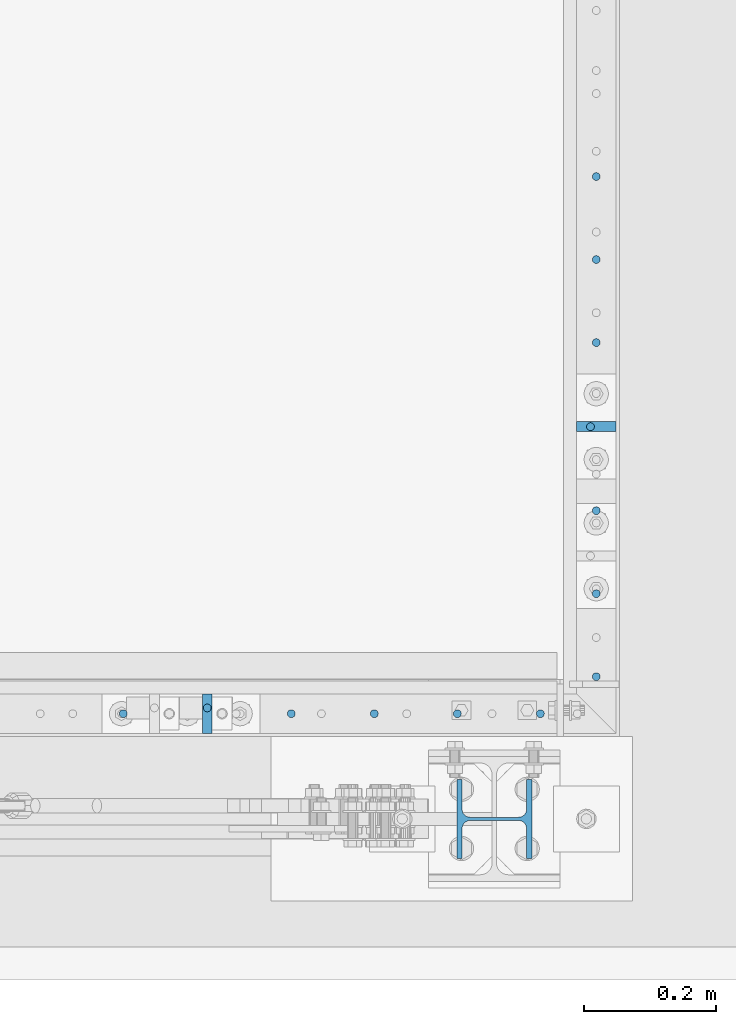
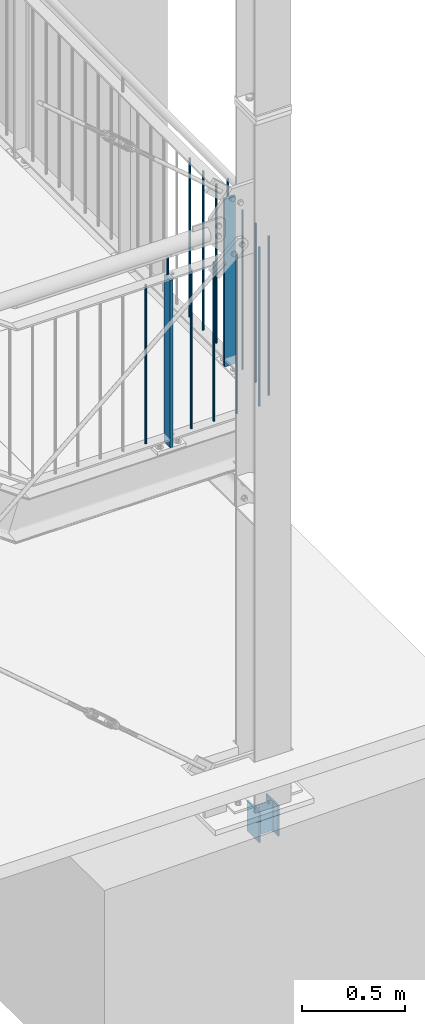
# One storey, part 86 of 825: 16 columns, 2 openings.
"""IFC2X3 building model written with IfcOpenShell, lengths in millimetres."""

from ifc_helpers import new_model, entity, si_unit, converted_unit, frame, origin, origin_with_axes, origin_2d, origin_2d_with_axis, place, context, project, spatial, rectangle, circle, i_section, extrude, clip, halfspace, material, element, save


model = new_model("IFC2X3")

# Units and contexts
model_context = context("Model", 3, precision=1e-09, world=origin_with_axes())
ifc_project = project(units=[si_unit("LENGTHUNIT", "METRE", prefix="MILLI"), si_unit("AREAUNIT", "SQUARE_METRE"), si_unit("VOLUMEUNIT", "CUBIC_METRE"), converted_unit("PLANEANGLEUNIT", "DEGREE", entity("IfcPlaneAngleMeasure", 0.01745329), si_unit("PLANEANGLEUNIT", "RADIAN"), dimensions=[0, 0, 0, 0, 0, 0, 0])], contexts=[model_context])

# Site, building, storey
site_placement = place(None, origin_with_axes())
site = spatial("IfcSite", under=ifc_project, at=site_placement, Name="Cnopf'sche Kinderklinik", CompositionType="ELEMENT")
building_placement = place(site_placement, origin_with_axes())
building = spatial("IfcBuilding", under=site, at=building_placement, Name="Struktur 1", CompositionType="ELEMENT")
storey_placement = place(building_placement, origin_with_axes())
storey = spatial("IfcBuildingStorey", under=building, at=storey_placement, Name="Default Storey", CompositionType="ELEMENT", Elevation=0.0)

# Column, openings
ifc_material = material(Name="S235JR")
column_1_placement = place(None, frame((8866.713402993, 4366.736971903, 30.0), z_axis=(0.0, 0.0, 1.0), x_axis=(0.0, 1.0, 0.0)))
column_1 = element("IfcColumn", 1, at=column_1_placement, inside=storey, material=ifc_material, Name="-", ObjectType="-", context=model_context, shape_type="SweptSolid", body=[
    extrude(i_section(OverallWidth=120.0, OverallDepth=114.0, WebThickness=5.0, FlangeThickness=8.0, FilletRadius=12.0, at=origin_2d()), origin(), (0.0, 0.0, -1.0), 180.0),
])
opening_1_placement = place(column_1_placement, frame((-3.0, 30.0, -12.0), z_axis=(1.0, 0.0, 0.0), x_axis=(0.0, 0.0, -1.0)))
element("IfcOpeningElement", 2, at=opening_1_placement, cuts=column_1, ObjectType="Opening", context=model_context, shape_type="SweptSolid", body=[
    extrude(circle(Radius=6.001, at=origin_2d_with_axis()), origin(), (0.0, 0.0, 1.0), 6.0),
])
opening_2_placement = place(column_1_placement, frame((-3.0, -30.0, -12.0), z_axis=(1.0, 0.0, 0.0), x_axis=(0.0, 0.0, -1.0)))
element("IfcOpeningElement", 3, at=opening_2_placement, cuts=column_1, ObjectType="Opening", context=model_context, shape_type="SweptSolid", body=[
    extrude(circle(Radius=6.001, at=origin_2d_with_axis()), origin(), (0.0, 0.0, 1.0), 6.0),
])

# Columns
column_2_placement = place(None, frame((9021.713402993, 4963.274795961, 3220.775923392), z_axis=(0.0, 0.0, 1.0), x_axis=(0.0, -1.0, 0.0)))
element("IfcColumn", 4, at=column_2_placement, inside=storey, material=ifc_material, Name="Railing_Post_Landing#6", ObjectType="Railing_Post_Landing#6", context=model_context, shape_type="Clipping", body=[
    clip(clip(extrude(rectangle(XDim=15.0, YDim=60.0, at=origin_2d()), origin(), (0.0, 0.0, -1.0), 1070.646584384), halfspace(frame((4963.274795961, -9021.713402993, -1019.722292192), z_axis=(0.0, 0.0, 1.0), x_axis=(0.0, 1.0, 0.0)), True)), halfspace(frame((4963.274795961, -9021.713402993, -30.924292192), z_axis=(0.0, 0.0, -1.0), x_axis=(0.0, -1.0, 0.0)), True)),
])
column_3_placement = place(None, frame((8430.174109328, 4526.736971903, 3220.775923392), z_axis=(0.0, 0.0, 1.0), x_axis=(-1.0, 0.0, 0.0)))
element("IfcColumn", 5, at=column_3_placement, inside=storey, material=ifc_material, Name="Railing_Post_Landing#7", ObjectType="Railing_Post_Landing#7", context=model_context, shape_type="Clipping", body=[
    clip(clip(extrude(rectangle(XDim=15.0, YDim=60.0, at=origin_2d()), origin(), (0.0, 0.0, -1.0), 1070.646584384), halfspace(frame((8430.174109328, 4526.736971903, -1019.722292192), z_axis=(0.0, 0.0, 1.0), x_axis=(-1.0, 0.0, 0.0)), True)), halfspace(frame((8430.174109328, 4526.736971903, -30.924292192), z_axis=(0.0, 0.0, -1.0), x_axis=(1.0, 0.0, 0.0)), True)),
])
column_4_placement = place(None, frame((9021.713402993, 5343.553835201, 3203.337912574), z_axis=(0.0, 0.0, 1.0), x_axis=(0.0, -1.0, 0.0)))
element("IfcColumn", 6, at=column_4_placement, inside=storey, material=ifc_material, Name="Railing_Picket_Landing#39", ObjectType="Railing_Picket_Landing#39", context=model_context, shape_type="Clipping", body=[
    clip(clip(extrude(circle(Radius=6.0, at=origin_2d()), origin(), (0.0, 0.0, -1.0), 965.770562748), halfspace(frame((5343.553835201, -9021.713402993, -13.486281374), z_axis=(0.0, 0.0, -1.0), x_axis=(0.0, -1.0, 0.0)), True)), halfspace(frame((5343.553835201, -9021.713402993, -952.284281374), z_axis=(0.0, 0.0, 1.0), x_axis=(0.0, 1.0, 0.0)), True)),
])
column_5_placement = place(None, frame((9021.713402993, 5217.294315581, 3203.337912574), z_axis=(0.0, 0.0, 1.0), x_axis=(0.0, -1.0, 0.0)))
element("IfcColumn", 7, at=column_5_placement, inside=storey, material=ifc_material, Name="Railing_Picket_Landing#40", ObjectType="Railing_Picket_Landing#40", context=model_context, shape_type="Clipping", body=[
    clip(clip(extrude(circle(Radius=6.0, at=origin_2d()), origin(), (0.0, 0.0, -1.0), 965.770562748), halfspace(frame((5217.294315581, -9021.713402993, -13.486281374), z_axis=(0.0, 0.0, -1.0), x_axis=(0.0, -1.0, 0.0)), True)), halfspace(frame((5217.294315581, -9021.713402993, -952.284281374), z_axis=(0.0, 0.0, 1.0), x_axis=(0.0, 1.0, 0.0)), True)),
])
column_6_placement = place(None, frame((9021.713402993, 5091.034795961, 3203.337912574), z_axis=(0.0, 0.0, 1.0), x_axis=(0.0, -1.0, 0.0)))
element("IfcColumn", 8, at=column_6_placement, inside=storey, material=ifc_material, Name="Railing_Picket_Landing#41", ObjectType="Railing_Picket_Landing#41", context=model_context, shape_type="Clipping", body=[
    clip(clip(extrude(circle(Radius=6.0, at=origin_2d()), origin(), (0.0, 0.0, -1.0), 965.770562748), halfspace(frame((5091.034795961, -9021.713402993, -13.486281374), z_axis=(0.0, 0.0, -1.0), x_axis=(0.0, -1.0, 0.0)), True)), halfspace(frame((5091.034795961, -9021.713402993, -952.284281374), z_axis=(0.0, 0.0, 1.0), x_axis=(0.0, 1.0, 0.0)), True)),
])
column_7_placement = place(None, frame((9021.713402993, 4835.514795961, 3203.337912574), z_axis=(0.0, 0.0, 1.0), x_axis=(0.0, -1.0, 0.0)))
element("IfcColumn", 9, at=column_7_placement, inside=storey, material=ifc_material, Name="Railing_Picket_Landing#42", ObjectType="Railing_Picket_Landing#42", context=model_context, shape_type="Clipping", body=[
    clip(clip(extrude(circle(Radius=6.0, at=origin_2d()), origin(), (0.0, 0.0, -1.0), 965.770562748), halfspace(frame((4835.514795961, -9021.713402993, -13.486281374), z_axis=(0.0, 0.0, -1.0), x_axis=(0.0, -1.0, 0.0)), True)), halfspace(frame((4835.514795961, -9021.713402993, -952.284281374), z_axis=(0.0, 0.0, 1.0), x_axis=(0.0, 1.0, 0.0)), True)),
])
column_8_placement = place(None, frame((9021.713402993, 4709.25527634, 3203.337912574), z_axis=(0.0, 0.0, 1.0), x_axis=(0.0, -1.0, 0.0)))
element("IfcColumn", 10, at=column_8_placement, inside=storey, material=ifc_material, Name="Railing_Picket_Landing#43", ObjectType="Railing_Picket_Landing#43", context=model_context, shape_type="Clipping", body=[
    clip(clip(extrude(circle(Radius=6.0, at=origin_2d()), origin(), (0.0, 0.0, -1.0), 965.770562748), halfspace(frame((4709.25527634, -9021.713402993, -13.486281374), z_axis=(0.0, 0.0, -1.0), x_axis=(0.0, -1.0, 0.0)), True)), halfspace(frame((4709.25527634, -9021.713402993, -952.284281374), z_axis=(0.0, 0.0, 1.0), x_axis=(0.0, 1.0, 0.0)), True)),
])
column_9_placement = place(None, frame((9021.713402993, 4582.99575672, 3203.337912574), z_axis=(0.0, 0.0, 1.0), x_axis=(0.0, -1.0, 0.0)))
element("IfcColumn", 11, at=column_9_placement, inside=storey, material=ifc_material, Name="Railing_Picket_Landing#44", ObjectType="Railing_Picket_Landing#44", context=model_context, shape_type="Clipping", body=[
    clip(clip(extrude(circle(Radius=6.0, at=origin_2d()), origin(), (0.0, 0.0, -1.0), 965.770562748), halfspace(frame((4582.99575672, -9021.713402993, -13.486281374), z_axis=(0.0, 0.0, -1.0), x_axis=(0.0, -1.0, 0.0)), True)), halfspace(frame((4582.99575672, -9021.713402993, -952.284281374), z_axis=(0.0, 0.0, 1.0), x_axis=(0.0, 1.0, 0.0)), True)),
])
column_10_placement = place(None, frame((8936.712668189, 4526.736971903, 3203.337912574), z_axis=(0.0, 0.0, 1.0), x_axis=(-1.0, 0.0, 0.0)))
element("IfcColumn", 12, at=column_10_placement, inside=storey, material=ifc_material, Name="Railing_Picket_Landing#45", ObjectType="Railing_Picket_Landing#45", context=model_context, shape_type="Clipping", body=[
    clip(clip(extrude(circle(Radius=6.0, at=origin_2d()), origin(), (0.0, 0.0, -1.0), 965.770562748), halfspace(frame((8936.712668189, 4526.736971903, -13.486281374), z_axis=(0.0, 0.0, -1.0), x_axis=(1.0, 0.0, 0.0)), True)), halfspace(frame((8936.712668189, 4526.736971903, -952.284281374), z_axis=(0.0, 0.0, 1.0), x_axis=(-1.0, 0.0, 0.0)), True)),
])
column_11_placement = place(None, frame((8810.453148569, 4526.736971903, 3203.337912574), z_axis=(0.0, 0.0, 1.0), x_axis=(-1.0, 0.0, 0.0)))
element("IfcColumn", 13, at=column_11_placement, inside=storey, material=ifc_material, Name="Railing_Picket_Landing#46", ObjectType="Railing_Picket_Landing#46", context=model_context, shape_type="Clipping", body=[
    clip(clip(extrude(circle(Radius=6.0, at=origin_2d()), origin(), (0.0, 0.0, -1.0), 965.770562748), halfspace(frame((8810.453148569, 4526.736971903, -13.486281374), z_axis=(0.0, 0.0, -1.0), x_axis=(1.0, 0.0, 0.0)), True)), halfspace(frame((8810.453148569, 4526.736971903, -952.284281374), z_axis=(0.0, 0.0, 1.0), x_axis=(-1.0, 0.0, 0.0)), True)),
])
column_12_placement = place(None, frame((8684.193628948, 4526.736971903, 3203.337912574), z_axis=(0.0, 0.0, 1.0), x_axis=(-1.0, 0.0, 0.0)))
element("IfcColumn", 14, at=column_12_placement, inside=storey, material=ifc_material, Name="Railing_Picket_Landing#47", ObjectType="Railing_Picket_Landing#47", context=model_context, shape_type="Clipping", body=[
    clip(clip(extrude(circle(Radius=6.0, at=origin_2d()), origin(), (0.0, 0.0, -1.0), 965.770562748), halfspace(frame((8684.193628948, 4526.736971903, -13.486281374), z_axis=(0.0, 0.0, -1.0), x_axis=(1.0, 0.0, 0.0)), True)), halfspace(frame((8684.193628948, 4526.736971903, -952.284281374), z_axis=(0.0, 0.0, 1.0), x_axis=(-1.0, 0.0, 0.0)), True)),
])
column_13_placement = place(None, frame((8557.934109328, 4526.736971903, 3203.337912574), z_axis=(0.0, 0.0, 1.0), x_axis=(-1.0, 0.0, 0.0)))
element("IfcColumn", 15, at=column_13_placement, inside=storey, material=ifc_material, Name="Railing_Picket_Landing#48", ObjectType="Railing_Picket_Landing#48", context=model_context, shape_type="Clipping", body=[
    clip(clip(extrude(circle(Radius=6.0, at=origin_2d()), origin(), (0.0, 0.0, -1.0), 965.770562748), halfspace(frame((8557.934109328, 4526.736971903, -13.486281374), z_axis=(0.0, 0.0, -1.0), x_axis=(1.0, 0.0, 0.0)), True)), halfspace(frame((8557.934109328, 4526.736971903, -952.284281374), z_axis=(0.0, 0.0, 1.0), x_axis=(-1.0, 0.0, 0.0)), True)),
])
column_14_placement = place(None, frame((8302.414109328, 4526.736971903, 3203.337912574), z_axis=(0.0, 0.0, 1.0), x_axis=(-1.0, 0.0, 0.0)))
element("IfcColumn", 16, at=column_14_placement, inside=storey, material=ifc_material, Name="Railing_Picket_Landing#49", ObjectType="Railing_Picket_Landing#49", context=model_context, shape_type="Clipping", body=[
    clip(clip(extrude(circle(Radius=6.0, at=origin_2d()), origin(), (0.0, 0.0, -1.0), 965.770562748), halfspace(frame((8302.414109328, 4526.736971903, -13.486281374), z_axis=(0.0, 0.0, -1.0), x_axis=(1.0, 0.0, 0.0)), True)), halfspace(frame((8302.414109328, 4526.736971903, -952.284281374), z_axis=(0.0, 0.0, 1.0), x_axis=(-1.0, 0.0, 0.0)), True)),
])
column_15_placement = place(None, frame((9012.913402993, 4963.274795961, 3308.337912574), z_axis=(0.0, 0.0, 1.0), x_axis=(-1.0, 0.0, 0.0)))
element("IfcColumn", 17, at=column_15_placement, inside=storey, material=ifc_material, Name="Bar#6", ObjectType="Bar#6", context=model_context, shape_type="Clipping", body=[
    clip(clip(extrude(circle(Radius=6.0, at=origin_2d()), origin(), (0.0, 0.0, -1.0), 116.970562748), halfspace(frame((9012.913402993, 4963.274795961, -8.486281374), z_axis=(0.0, 0.0, -1.0), x_axis=(1.0, 0.0, 0.0)), True)), halfspace(frame((9012.913402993, 4963.274795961, -108.484281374), z_axis=(0.0, 0.0, 1.0), x_axis=(-1.0, 0.0, 0.0)), True)),
])
column_16_placement = place(None, frame((8430.174109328, 4535.536971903, 3308.337912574), z_axis=(0.0, 0.0, 1.0), x_axis=(0.0, 1.0, 0.0)))
element("IfcColumn", 18, at=column_16_placement, inside=storey, material=ifc_material, Name="Bar#7", ObjectType="Bar#7", context=model_context, shape_type="Clipping", body=[
    clip(clip(extrude(circle(Radius=6.0, at=origin_2d()), origin(), (0.0, 0.0, -1.0), 116.970562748), halfspace(frame((-4535.536971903, 8430.174109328, -8.486281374), z_axis=(0.0, 0.0, -1.0), x_axis=(0.0, 1.0, 0.0)), True)), halfspace(frame((-4535.536971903, 8430.174109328, -108.484281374), z_axis=(0.0, 0.0, 1.0), x_axis=(0.0, -1.0, 0.0)), True)),
])

save(model, "model.ifc")
